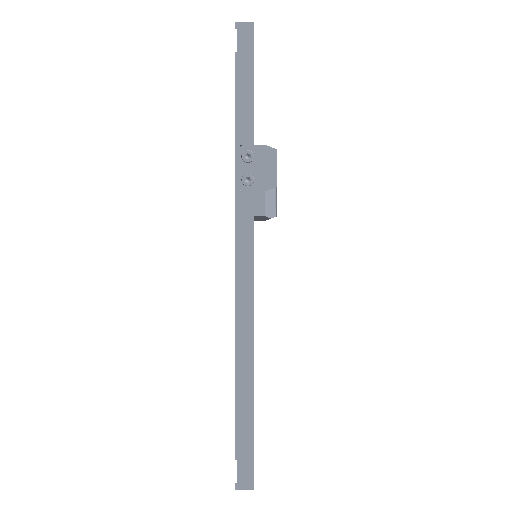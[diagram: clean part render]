
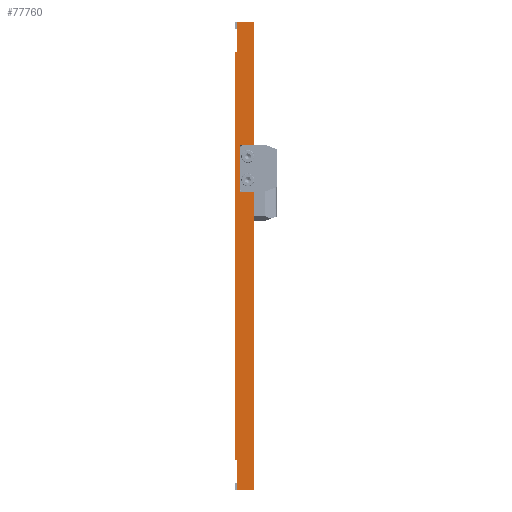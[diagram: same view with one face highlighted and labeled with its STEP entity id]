
A CAD part, left-side view. The second image highlights one B-rep face of the part: STEP entity #77760.
In plain terms, the highlighted planar face has unit normal (-1, 0, 0).
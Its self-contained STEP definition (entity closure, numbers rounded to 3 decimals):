
#847 = VECTOR ( 'NONE', #37823, 1000. ) ;
#1097 = ORIENTED_EDGE ( 'NONE', *, *, #79479, .T. ) ;
#1122 = VERTEX_POINT ( 'NONE', #3787 ) ;
#1581 = LINE ( 'NONE', #16884, #75473 ) ;
#2565 = VERTEX_POINT ( 'NONE', #28690 ) ;
#3787 = CARTESIAN_POINT ( 'NONE',  ( -149.875, 7.4, -87. ) ) ;
#3871 = DIRECTION ( 'NONE',  ( 0., 0., 1. ) ) ;
#4155 = DIRECTION ( 'NONE',  ( 0., 0., -1. ) ) ;
#6816 = EDGE_CURVE ( 'NONE', #50537, #98561, #21732, .T. ) ;
#7631 = PLANE ( 'NONE',  #95809 ) ;
#8592 = VERTEX_POINT ( 'NONE', #62369 ) ;
#9699 = VERTEX_POINT ( 'NONE', #25431 ) ;
#12113 = VECTOR ( 'NONE', #29556, 1000. ) ;
#14216 = LINE ( 'NONE', #25738, #32606 ) ;
#14815 = CARTESIAN_POINT ( 'NONE',  ( -149.875, 7.4, 0. ) ) ;
#15298 = VECTOR ( 'NONE', #4155, 1000. ) ;
#15543 = CARTESIAN_POINT ( 'NONE',  ( -149.875, 8., -99.875 ) ) ;
#15560 = VECTOR ( 'NONE', #69149, 1000. ) ;
#16884 = CARTESIAN_POINT ( 'NONE',  ( -149.875, 8., 27.5 ) ) ;
#21732 = LINE ( 'NONE', #92637, #847 ) ;
#24081 = EDGE_CURVE ( 'NONE', #98561, #85636, #59910, .T. ) ;
#25257 = EDGE_CURVE ( 'NONE', #88664, #30636, #38948, .T. ) ;
#25431 = CARTESIAN_POINT ( 'NONE',  ( -149.875, 8., 87. ) ) ;
#25738 = CARTESIAN_POINT ( 'NONE',  ( -149.875, 0., -99.875 ) ) ;
#27035 = EDGE_CURVE ( 'NONE', #85636, #49290, #39940, .T. ) ;
#27938 = CARTESIAN_POINT ( 'NONE',  ( -149.875, 0., -99.875 ) ) ;
#28690 = CARTESIAN_POINT ( 'NONE',  ( -149.875, 0., -99.875 ) ) ;
#29437 = ORIENTED_EDGE ( 'NONE', *, *, #39872, .T. ) ;
#29481 = VECTOR ( 'NONE', #3871, 1000. ) ;
#29556 = DIRECTION ( 'NONE',  ( 0., -1., 0. ) ) ;
#30636 = VERTEX_POINT ( 'NONE', #66193 ) ;
#31200 = VERTEX_POINT ( 'NONE', #59172 ) ;
#32606 = VECTOR ( 'NONE', #33670, 1000. ) ;
#33000 = LINE ( 'NONE', #84686, #12113 ) ;
#33670 = DIRECTION ( 'NONE',  ( 0., 0., 1. ) ) ;
#36054 = VECTOR ( 'NONE', #55231, 1000. ) ;
#36494 = VECTOR ( 'NONE', #69926, 1000. ) ;
#37823 = DIRECTION ( 'NONE',  ( 0., 0., 1. ) ) ;
#38502 = LINE ( 'NONE', #94517, #36054 ) ;
#38948 = LINE ( 'NONE', #14815, #36494 ) ;
#39183 = LINE ( 'NONE', #81071, #57694 ) ;
#39206 = DIRECTION ( 'NONE',  ( -1., 0., 0. ) ) ;
#39872 = EDGE_CURVE ( 'NONE', #9699, #8592, #99074, .T. ) ;
#39940 = LINE ( 'NONE', #27938, #58496 ) ;
#42585 = EDGE_CURVE ( 'NONE', #66215, #1122, #92374, .T. ) ;
#44141 = EDGE_LOOP ( 'NONE', ( #52348, #81172, #89031, #29437, #70873, #72110, #49920, #63699, #1097, #52982, #51290, #48803 ) ) ;
#48108 = CARTESIAN_POINT ( 'NONE',  ( -149.875, 0., 47.5 ) ) ;
#48803 = ORIENTED_EDGE ( 'NONE', *, *, #27035, .T. ) ;
#49290 = VERTEX_POINT ( 'NONE', #52276 ) ;
#49920 = ORIENTED_EDGE ( 'NONE', *, *, #75910, .T. ) ;
#50537 = VERTEX_POINT ( 'NONE', #85651 ) ;
#51264 = CARTESIAN_POINT ( 'NONE',  ( -149.875, 8., -99.875 ) ) ;
#51290 = ORIENTED_EDGE ( 'NONE', *, *, #24081, .T. ) ;
#52276 = CARTESIAN_POINT ( 'NONE',  ( -149.875, 0., 99.875 ) ) ;
#52348 = ORIENTED_EDGE ( 'NONE', *, *, #66676, .T. ) ;
#52982 = ORIENTED_EDGE ( 'NONE', *, *, #6816, .T. ) ;
#54955 = EDGE_CURVE ( 'NONE', #88664, #9699, #38502, .T. ) ;
#55231 = DIRECTION ( 'NONE',  ( 0., 1., 0. ) ) ;
#56458 = DIRECTION ( 'NONE',  ( 0., 1., 0. ) ) ;
#57694 = VECTOR ( 'NONE', #65238, 1000. ) ;
#58496 = VECTOR ( 'NONE', #83045, 1000. ) ;
#58921 = CARTESIAN_POINT ( 'NONE',  ( -149.875, 7.4, 0. ) ) ;
#59172 = CARTESIAN_POINT ( 'NONE',  ( -149.875, 0., 27.5 ) ) ;
#59910 = LINE ( 'NONE', #92546, #15560 ) ;
#62369 = CARTESIAN_POINT ( 'NONE',  ( -149.875, 8., -87. ) ) ;
#62522 = CARTESIAN_POINT ( 'NONE',  ( -149.875, 7.4, 87. ) ) ;
#62990 = DIRECTION ( 'NONE',  ( 0., -1., 0. ) ) ;
#63699 = ORIENTED_EDGE ( 'NONE', *, *, #77953, .T. ) ;
#64539 = CARTESIAN_POINT ( 'NONE',  ( -149.875, 6., 47.5 ) ) ;
#65238 = DIRECTION ( 'NONE',  ( 0., 1., 0. ) ) ;
#66193 = CARTESIAN_POINT ( 'NONE',  ( -149.875, 7.4, 99.875 ) ) ;
#66215 = VERTEX_POINT ( 'NONE', #82544 ) ;
#66676 = EDGE_CURVE ( 'NONE', #49290, #30636, #39183, .T. ) ;
#69149 = DIRECTION ( 'NONE',  ( 0., -1., 0. ) ) ;
#69926 = DIRECTION ( 'NONE',  ( 0., 0., 1. ) ) ;
#70873 = ORIENTED_EDGE ( 'NONE', *, *, #89680, .T. ) ;
#72110 = ORIENTED_EDGE ( 'NONE', *, *, #42585, .F. ) ;
#73782 = VECTOR ( 'NONE', #62990, 1000. ) ;
#75473 = VECTOR ( 'NONE', #56458, 1000. ) ;
#75910 = EDGE_CURVE ( 'NONE', #66215, #2565, #94720, .T. ) ;
#77760 = ADVANCED_FACE ( 'NONE', ( #94352 ), #7631, .T. ) ;
#77953 = EDGE_CURVE ( 'NONE', #2565, #31200, #14216, .T. ) ;
#78498 = CARTESIAN_POINT ( 'NONE',  ( -149.875, 8., -99.875 ) ) ;
#79479 = EDGE_CURVE ( 'NONE', #31200, #50537, #1581, .T. ) ;
#81071 = CARTESIAN_POINT ( 'NONE',  ( -149.875, 8., 99.875 ) ) ;
#81172 = ORIENTED_EDGE ( 'NONE', *, *, #25257, .F. ) ;
#82544 = CARTESIAN_POINT ( 'NONE',  ( -149.875, 7.4, -99.875 ) ) ;
#83045 = DIRECTION ( 'NONE',  ( 0., 0., 1. ) ) ;
#84686 = CARTESIAN_POINT ( 'NONE',  ( -149.875, 7.4, -87. ) ) ;
#85636 = VERTEX_POINT ( 'NONE', #48108 ) ;
#85651 = CARTESIAN_POINT ( 'NONE',  ( -149.875, 6., 27.5 ) ) ;
#88664 = VERTEX_POINT ( 'NONE', #62522 ) ;
#89031 = ORIENTED_EDGE ( 'NONE', *, *, #54955, .T. ) ;
#89680 = EDGE_CURVE ( 'NONE', #8592, #1122, #33000, .T. ) ;
#92374 = LINE ( 'NONE', #58921, #29481 ) ;
#92546 = CARTESIAN_POINT ( 'NONE',  ( -149.875, 8., 47.5 ) ) ;
#92637 = CARTESIAN_POINT ( 'NONE',  ( -149.875, 6., -99.875 ) ) ;
#94352 = FACE_OUTER_BOUND ( 'NONE', #44141, .T. ) ;
#94394 = DIRECTION ( 'NONE',  ( 0., 0., 1. ) ) ;
#94517 = CARTESIAN_POINT ( 'NONE',  ( -149.875, 8., 87. ) ) ;
#94720 = LINE ( 'NONE', #78498, #73782 ) ;
#95809 = AXIS2_PLACEMENT_3D ( 'NONE', #15543, #39206, #94394 ) ;
#98561 = VERTEX_POINT ( 'NONE', #64539 ) ;
#99074 = LINE ( 'NONE', #51264, #15298 ) ;
